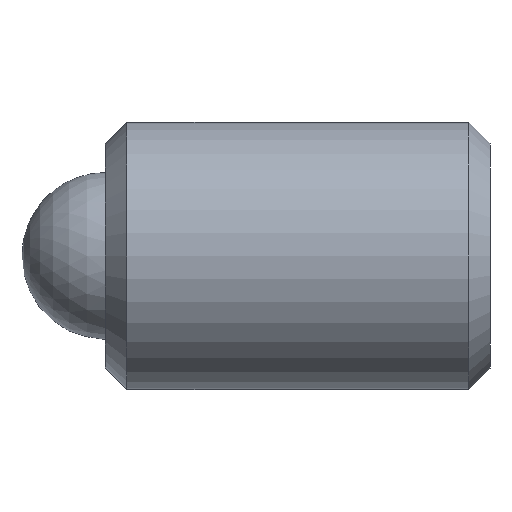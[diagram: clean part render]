
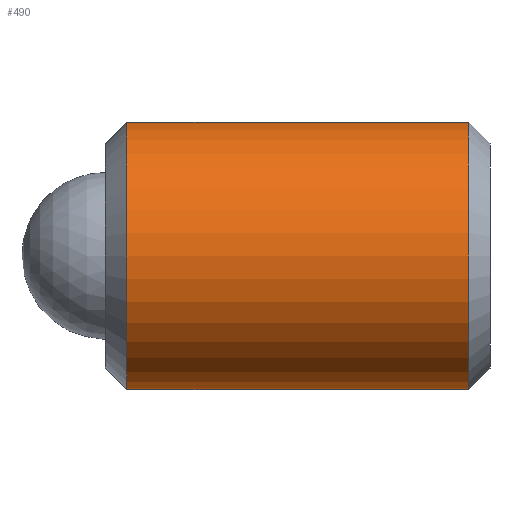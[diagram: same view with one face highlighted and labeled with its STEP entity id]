
A CAD part, front view. The second image highlights one B-rep face of the part: STEP entity #490.
In plain terms, the highlighted cylindrical face has radius 3.175 mm (diameter 6.35 mm), a partial arc.
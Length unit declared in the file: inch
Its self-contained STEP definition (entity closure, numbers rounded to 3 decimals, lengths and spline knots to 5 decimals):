
#24 = CIRCLE ( 'NONE', #170, 0.125 ) ;
#44 = CIRCLE ( 'NONE', #416, 0.125 ) ;
#52 = ORIENTED_EDGE ( 'NONE', *, *, #574, .F. ) ;
#62 = CARTESIAN_POINT ( 'NONE',  ( 0.33987, 0., 0.125 ) ) ;
#75 = CARTESIAN_POINT ( 'NONE',  ( 0.33987, 0., -0.125 ) ) ;
#80 = CARTESIAN_POINT ( 'NONE',  ( 0.35988, 0., 0.125 ) ) ;
#135 = FACE_OUTER_BOUND ( 'NONE', #620, .T. ) ;
#152 = DIRECTION ( 'NONE',  ( -1., 0., 0. ) ) ;
#165 = VERTEX_POINT ( 'NONE', #75 ) ;
#170 = AXIS2_PLACEMENT_3D ( 'NONE', #237, #236, #195 ) ;
#177 = EDGE_CURVE ( 'NONE', #345, #383, #44, .T. ) ;
#195 = DIRECTION ( 'NONE',  ( 0., 0., -1. ) ) ;
#213 = CYLINDRICAL_SURFACE ( 'NONE', #221, 0.125 ) ;
#215 = CARTESIAN_POINT ( 'NONE',  ( 0.02, 0., 0.125 ) ) ;
#221 = AXIS2_PLACEMENT_3D ( 'NONE', #275, #467, #604 ) ;
#229 = VECTOR ( 'NONE', #483, 39.37008 ) ;
#236 = DIRECTION ( 'NONE',  ( -1., 0., 0. ) ) ;
#237 = CARTESIAN_POINT ( 'NONE',  ( 0.33987, 0., 0. ) ) ;
#273 = VERTEX_POINT ( 'NONE', #62 ) ;
#275 = CARTESIAN_POINT ( 'NONE',  ( 0.35988, 0., 0. ) ) ;
#345 = VERTEX_POINT ( 'NONE', #215 ) ;
#350 = LINE ( 'NONE', #433, #605 ) ;
#359 = CARTESIAN_POINT ( 'NONE',  ( 0.02, 0., 0. ) ) ;
#360 = ORIENTED_EDGE ( 'NONE', *, *, #573, .T. ) ;
#383 = VERTEX_POINT ( 'NONE', #384 ) ;
#384 = CARTESIAN_POINT ( 'NONE',  ( 0.02, 0., -0.125 ) ) ;
#392 = DIRECTION ( 'NONE',  ( 1., 0., 0. ) ) ;
#397 = DIRECTION ( 'NONE',  ( 0., 0., -1. ) ) ;
#416 = AXIS2_PLACEMENT_3D ( 'NONE', #359, #392, #397 ) ;
#433 = CARTESIAN_POINT ( 'NONE',  ( 0.35988, 0., -0.125 ) ) ;
#467 = DIRECTION ( 'NONE',  ( -1., 0., 0. ) ) ;
#483 = DIRECTION ( 'NONE',  ( -1., 0., 0. ) ) ;
#490 = ADVANCED_FACE ( 'NONE', ( #135 ), #213, .T. ) ;
#548 = EDGE_CURVE ( 'NONE', #165, #273, #24, .T. ) ;
#573 = EDGE_CURVE ( 'NONE', #273, #345, #624, .T. ) ;
#574 = EDGE_CURVE ( 'NONE', #165, #383, #350, .T. ) ;
#586 = ORIENTED_EDGE ( 'NONE', *, *, #548, .T. ) ;
#598 = ORIENTED_EDGE ( 'NONE', *, *, #177, .T. ) ;
#604 = DIRECTION ( 'NONE',  ( 0., 0., 1. ) ) ;
#605 = VECTOR ( 'NONE', #152, 39.37008 ) ;
#620 = EDGE_LOOP ( 'NONE', ( #52, #586, #360, #598 ) ) ;
#624 = LINE ( 'NONE', #80, #229 ) ;
